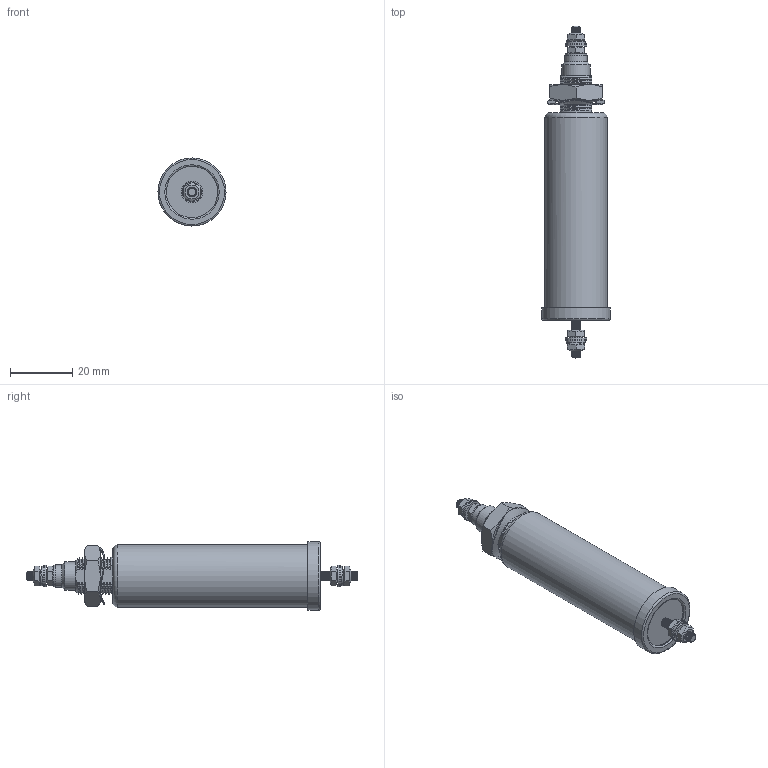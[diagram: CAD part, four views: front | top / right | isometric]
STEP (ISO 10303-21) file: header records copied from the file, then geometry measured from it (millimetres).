
FILE_DESCRIPTION(/* description */ (''),/* implementation_level */ '2;1');
FILE_NAME(/* name */ 'C:\SapWorkDir\Inventor\P01\ConvertTempPath\187978_IPT_000.ipt.stp',/* time_stamp */ '2018-01-23T16:17:47+07:00',/* author */ ('Eakchai.Yodchai'),/* organization */ ('Schaffner Thailand Ltd.'),/* preprocessor_version */ 'ST-DEVELOPER v16.5',/* originating_system */ 'Autodesk Inventor 2017',/* authorisation */ '');
FILE_SCHEMA (('AUTOMOTIVE_DESIGN { 1 0 10303 214 3 1 1 }'));
Length unit declared in the file: millimetre
Products named in the file (1): 801820
Bounding box: 21.95 x 107 x 21.95 mm (x, y, z)
Volume: 23727.9 mm3; surface area: 9960.2 mm2
Topology: 1 solids, 2 shells, 233 faces, 635 edges, 409 vertices
Faces by surface type: plane 69, cylinder 68, bspline 55, cone 37, torus 4
Full cylindrical faces by diameter (mm): 3.1 x1, 3.2 x5, 5.7 x1, 7 x5, 7.2 x1, 9.1 x1, 10.917 x2, 13.3 x1, 16.55 x1, 19 x1, 19.1 x1, 20 x1, 20.25 x1, 21.95 x1
Entity records: 20585 total; most frequent: CARTESIAN_POINT 15424, ORIENTED_EDGE 1152, DIRECTION 735, EDGE_CURVE 576, VERTEX_POINT 391, EDGE_LOOP 305, AXIS2_PLACEMENT_3D 299, B_SPLINE_CURVE_WITH_KNOTS 233
